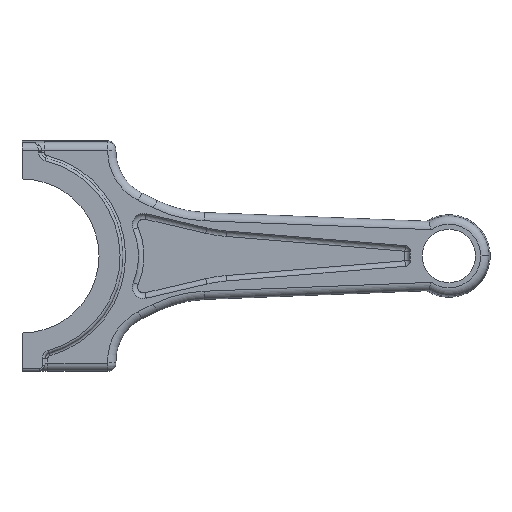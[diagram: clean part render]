
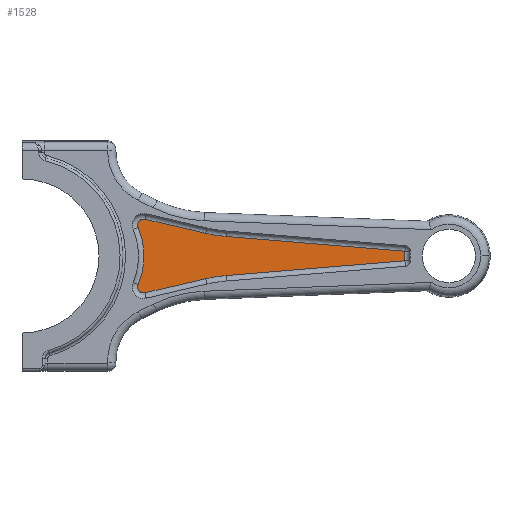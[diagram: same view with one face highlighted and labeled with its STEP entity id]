
A CAD part, left-side view. The second image highlights one B-rep face of the part: STEP entity #1528.
In plain terms, the highlighted planar face has unit normal (-1, 0, 0).
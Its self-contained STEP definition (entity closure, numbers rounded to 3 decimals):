
#1444=AXIS2_PLACEMENT_3D('Plane Axis2P3D',#1441,#1442,#1443) ;
#1457=AXIS2_PLACEMENT_3D('Circle Axis2P3D',#1455,#1456,$) ;
#1471=AXIS2_PLACEMENT_3D('Circle Axis2P3D',#1469,#1470,$) ;
#1478=AXIS2_PLACEMENT_3D('Circle Axis2P3D',#1476,#1477,$) ;
#1485=AXIS2_PLACEMENT_3D('Circle Axis2P3D',#1483,#1484,$) ;
#1499=AXIS2_PLACEMENT_3D('Circle Axis2P3D',#1497,#1498,$) ;
#1513=AXIS2_PLACEMENT_3D('Circle Axis2P3D',#1511,#1512,$) ;
#1441=CARTESIAN_POINT('Axis2P3D Location',(-4.,0.,0.)) ;
#1446=CARTESIAN_POINT('Line Origine',(-4.,-106.686,4.416)) ;
#1450=CARTESIAN_POINT('Vertex',(-4.,-139.162,1.739)) ;
#1452=CARTESIAN_POINT('Vertex',(-4.,-74.209,7.092)) ;
#1455=CARTESIAN_POINT('Axis2P3D Location',(-4.,-78.47,58.796)) ;
#1459=CARTESIAN_POINT('Vertex',(-4.,-66.727,8.264)) ;
#1462=CARTESIAN_POINT('Line Origine',(-4.,-55.695,10.828)) ;
#1466=CARTESIAN_POINT('Vertex',(-4.,-44.664,13.391)) ;
#1469=CARTESIAN_POINT('Axis2P3D Location',(-4.,-44.176,11.291)) ;
#1473=CARTESIAN_POINT('Vertex',(-4.,-42.199,10.43)) ;
#1476=CARTESIAN_POINT('Axis2P3D Location',(-4.,-18.272,0.)) ;
#1480=CARTESIAN_POINT('Vertex',(-4.,-42.199,-10.43)) ;
#1483=CARTESIAN_POINT('Axis2P3D Location',(-4.,-44.176,-11.291)) ;
#1487=CARTESIAN_POINT('Vertex',(-4.,-44.664,-13.391)) ;
#1490=CARTESIAN_POINT('Line Origine',(-4.,-55.695,-10.828)) ;
#1494=CARTESIAN_POINT('Vertex',(-4.,-66.727,-8.264)) ;
#1497=CARTESIAN_POINT('Axis2P3D Location',(-4.,-78.47,-58.796)) ;
#1501=CARTESIAN_POINT('Vertex',(-4.,-74.209,-7.092)) ;
#1504=CARTESIAN_POINT('Line Origine',(-4.,-106.686,-4.416)) ;
#1508=CARTESIAN_POINT('Vertex',(-4.,-139.162,-1.739)) ;
#1511=CARTESIAN_POINT('Axis2P3D Location',(-4.,-160.099,0.)) ;
#1442=DIRECTION('Axis2P3D Direction',(1.,0.,0.)) ;
#1443=DIRECTION('Axis2P3D XDirection',(0.,1.,0.)) ;
#1447=DIRECTION('Vector Direction',(0.,0.997,0.082)) ;
#1456=DIRECTION('Axis2P3D Direction',(1.,0.,0.)) ;
#1463=DIRECTION('Vector Direction',(0.,-0.974,-0.226)) ;
#1470=DIRECTION('Axis2P3D Direction',(1.,0.,0.)) ;
#1477=DIRECTION('Axis2P3D Direction',(1.,0.,0.)) ;
#1484=DIRECTION('Axis2P3D Direction',(1.,0.,0.)) ;
#1491=DIRECTION('Vector Direction',(0.,-0.974,0.226)) ;
#1498=DIRECTION('Axis2P3D Direction',(1.,0.,0.)) ;
#1505=DIRECTION('Vector Direction',(0.,-0.997,0.082)) ;
#1512=DIRECTION('Axis2P3D Direction',(1.,0.,0.)) ;
#1448=VECTOR('Line Direction',#1447,1.) ;
#1464=VECTOR('Line Direction',#1463,1.) ;
#1492=VECTOR('Line Direction',#1491,1.) ;
#1506=VECTOR('Line Direction',#1505,1.) ;
#1517=ORIENTED_EDGE('',*,*,#1454,.T.) ;
#1518=ORIENTED_EDGE('',*,*,#1461,.T.) ;
#1519=ORIENTED_EDGE('',*,*,#1468,.T.) ;
#1520=ORIENTED_EDGE('',*,*,#1475,.T.) ;
#1521=ORIENTED_EDGE('',*,*,#1482,.T.) ;
#1522=ORIENTED_EDGE('',*,*,#1489,.T.) ;
#1523=ORIENTED_EDGE('',*,*,#1496,.T.) ;
#1524=ORIENTED_EDGE('',*,*,#1503,.T.) ;
#1525=ORIENTED_EDGE('',*,*,#1510,.T.) ;
#1526=ORIENTED_EDGE('',*,*,#1515,.T.) ;
#1528=ADVANCED_FACE('Connecting Rod',(#1527),#1445,.F.) ;
#1458=CIRCLE('generated circle',#1457,51.879) ;
#1472=CIRCLE('generated circle',#1471,2.156) ;
#1479=CIRCLE('generated circle',#1478,26.102) ;
#1486=CIRCLE('generated circle',#1485,2.156) ;
#1500=CIRCLE('generated circle',#1499,51.879) ;
#1514=CIRCLE('generated circle',#1513,21.009) ;
#1454=EDGE_CURVE('',#1451,#1453,#1449,.T.) ;
#1461=EDGE_CURVE('',#1453,#1460,#1458,.T.) ;
#1468=EDGE_CURVE('',#1460,#1467,#1465,.F.) ;
#1475=EDGE_CURVE('',#1467,#1474,#1472,.F.) ;
#1482=EDGE_CURVE('',#1474,#1481,#1479,.T.) ;
#1489=EDGE_CURVE('',#1481,#1488,#1486,.F.) ;
#1496=EDGE_CURVE('',#1488,#1495,#1493,.T.) ;
#1503=EDGE_CURVE('',#1495,#1502,#1500,.T.) ;
#1510=EDGE_CURVE('',#1502,#1509,#1507,.T.) ;
#1515=EDGE_CURVE('',#1509,#1451,#1514,.T.) ;
#1516=EDGE_LOOP('',(#1517,#1518,#1519,#1520,#1521,#1522,#1523,#1524,#1525,#1526)) ;
#1527=FACE_OUTER_BOUND('',#1516,.T.) ;
#1449=LINE('Line',#1446,#1448) ;
#1465=LINE('Line',#1462,#1464) ;
#1493=LINE('Line',#1490,#1492) ;
#1507=LINE('Line',#1504,#1506) ;
#1445=PLANE('Plane',#1444) ;
#1451=VERTEX_POINT('',#1450) ;
#1453=VERTEX_POINT('',#1452) ;
#1460=VERTEX_POINT('',#1459) ;
#1467=VERTEX_POINT('',#1466) ;
#1474=VERTEX_POINT('',#1473) ;
#1481=VERTEX_POINT('',#1480) ;
#1488=VERTEX_POINT('',#1487) ;
#1495=VERTEX_POINT('',#1494) ;
#1502=VERTEX_POINT('',#1501) ;
#1509=VERTEX_POINT('',#1508) ;
